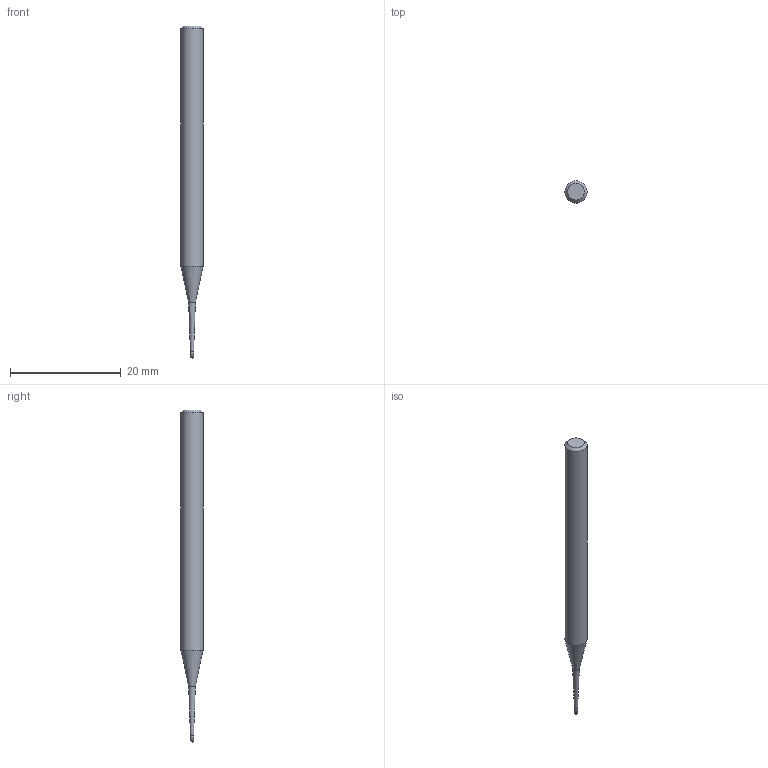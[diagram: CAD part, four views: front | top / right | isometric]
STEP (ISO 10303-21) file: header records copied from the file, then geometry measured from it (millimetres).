
FILE_DESCRIPTION((''),'2;1');
FILE_NAME('C:\Users\nsx150\AppData\Local\Temp\Mastercam 2021\SNAKH10GOD\TEMP.step','2021-10-21T13:31:36',(''),(''),'STEP Write','Mastercam 2021 ... CNC Software, Inc.','');
FILE_SCHEMA(('AUTOMOTIVE_DESIGN'));
Length unit declared in the file: millimetre
Products named in the file (1): None
Bounding box: 4 x 4 x 60 mm (x, y, z)
Volume: 588.8 mm3; surface area: 636.9 mm2
Topology: 2 solids, 2 shells, 10 faces, 16 edges, 9 vertices
Faces by surface type: plane 3, cylinder 3, cone 3, sphere 1
Full cylindrical faces by diameter (mm): 0.585 x1, 0.6 x1, 4 x1
Entity records: 232 total; most frequent: DIRECTION 40, CARTESIAN_POINT 28, AXIS2_PLACEMENT_3D 20, ORIENTED_EDGE 16, EDGE_LOOP 16, STYLED_ITEM 13, ADVANCED_FACE 10, FACE_BOUND 9
